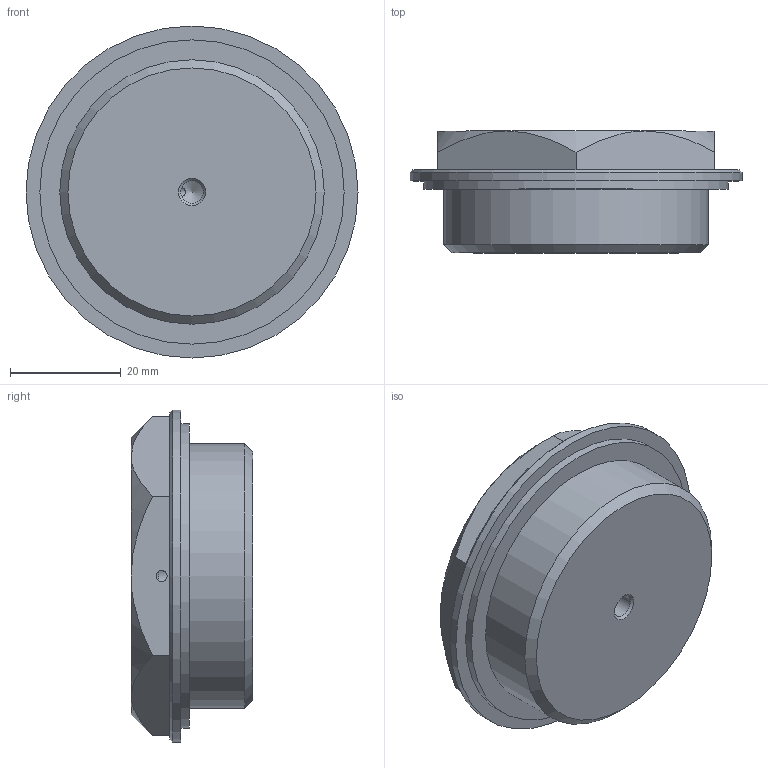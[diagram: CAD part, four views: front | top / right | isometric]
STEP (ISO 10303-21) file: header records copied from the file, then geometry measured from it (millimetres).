
FILE_DESCRIPTION( ( 'STEP AP203' ), '1' );
FILE_NAME( 'C:/Temp/Ganter_Step_05_03_2020/data/3_5/gn742/gn742_2/Threaded plug GN 742-60-G11_2-OSS-2.stp', '2020-03-12T13:39:49', ( 'License CC BY-ND 4.0' ), ( 'CADENAS' ), ' ', 'PARTsolutions', ' ' );
FILE_SCHEMA( ( 'CONFIG_CONTROL_DESIGN' ) );
Length unit declared in the file: millimetre
Products named in the file (1): _Threaded plug GN 742-60-G11/2-OSS-2
Bounding box: 60 x 22 x 60 mm (x, y, z)
Volume: 44286.9 mm3; surface area: 9254.7 mm2
Topology: 1 solids, 1 shells, 26 faces, 56 edges, 34 vertices
Faces by surface type: plane 11, cone 10, cylinder 5
Full cylindrical faces by diameter (mm): 2 x1, 4.134 x1, 47.803 x1, 55 x1, 60 x1
Entity records: 792 total; most frequent: CARTESIAN_POINT 245, DIRECTION 102, ORIENTED_EDGE 88, AXIS2_PLACEMENT_3D 45, EDGE_CURVE 44, EDGE_LOOP 39, VERTEX_POINT 32, FACE_OUTER_BOUND 31
